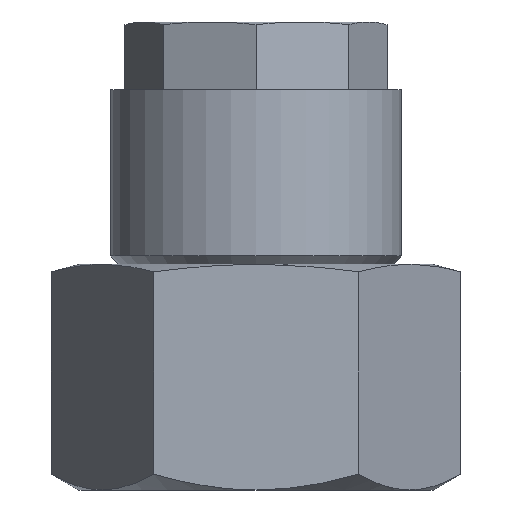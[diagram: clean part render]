
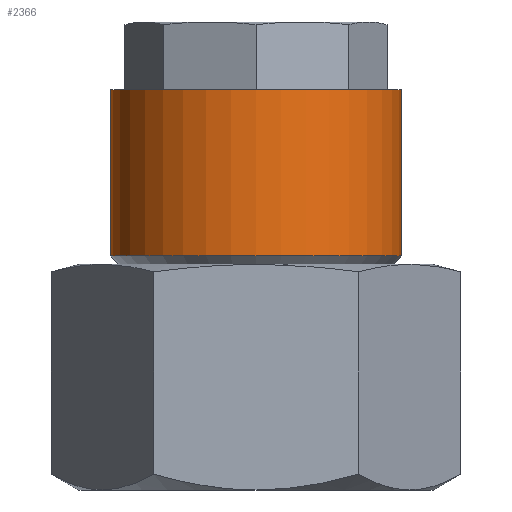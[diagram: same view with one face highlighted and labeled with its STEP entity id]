
A CAD part, front view. The second image highlights one B-rep face of the part: STEP entity #2366.
In plain terms, the highlighted cylindrical face has radius 9 mm (diameter 18 mm), a full revolution.
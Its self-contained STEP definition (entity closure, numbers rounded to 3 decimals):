
#1294=ORIENTED_EDGE('',*,*,#1500,.F.);
#1295=ORIENTED_EDGE('',*,*,#1501,.T.);
#1338=CIRCLE('',#2296,9.);
#1339=CIRCLE('',#2298,9.);
#1405=VERTEX_POINT('',#2159);
#1406=VERTEX_POINT('',#2162);
#1500=EDGE_CURVE('',#1405,#1405,#1338,.T.);
#1501=EDGE_CURVE('',#1406,#1406,#1339,.T.);
#1577=EDGE_LOOP('',(#1294));
#1578=EDGE_LOOP('',(#1295));
#1659=FACE_BOUND('',#1577,.T.);
#1660=FACE_BOUND('',#1578,.T.);
#1931=DIRECTION('',(0.,1.,0.));
#1932=DIRECTION('',(0.,0.,-9.));
#1933=DIRECTION('',(0.,1.,0.));
#1934=DIRECTION('',(1.,0.,0.));
#1935=DIRECTION('',(0.,1.,0.));
#1936=DIRECTION('',(0.,0.,9.));
#2159=CARTESIAN_POINT('',(26.989,25.395,-9.));
#2160=CARTESIAN_POINT('',(26.989,25.395,0.));
#2161=CARTESIAN_POINT('',(26.989,15.095,0.));
#2162=CARTESIAN_POINT('',(26.989,15.095,9.));
#2163=CARTESIAN_POINT('',(26.989,15.095,0.));
#2296=AXIS2_PLACEMENT_3D('',#2160,#1931,#1932);
#2297=AXIS2_PLACEMENT_3D('',#2161,#1933,#1934);
#2298=AXIS2_PLACEMENT_3D('',#2163,#1935,#1936);
#2314=CYLINDRICAL_SURFACE('',#2297,9.);
#2366=ADVANCED_FACE('',(#1659,#1660),#2314,.T.);
